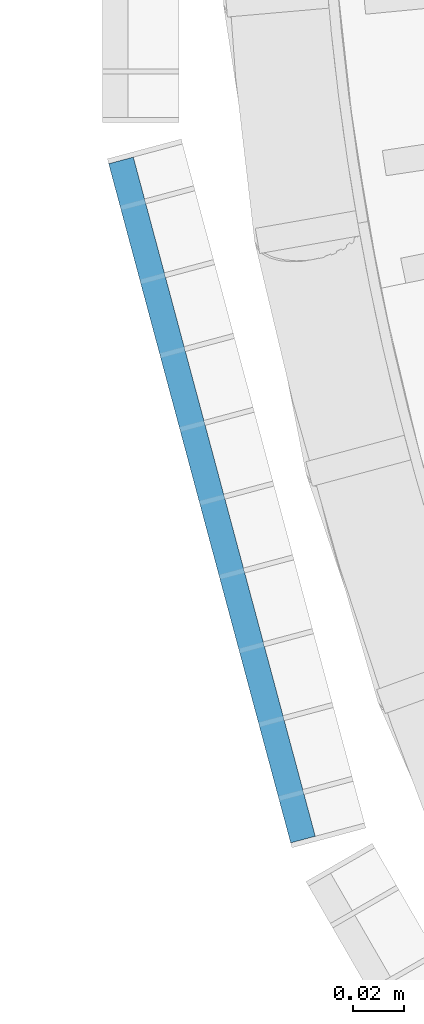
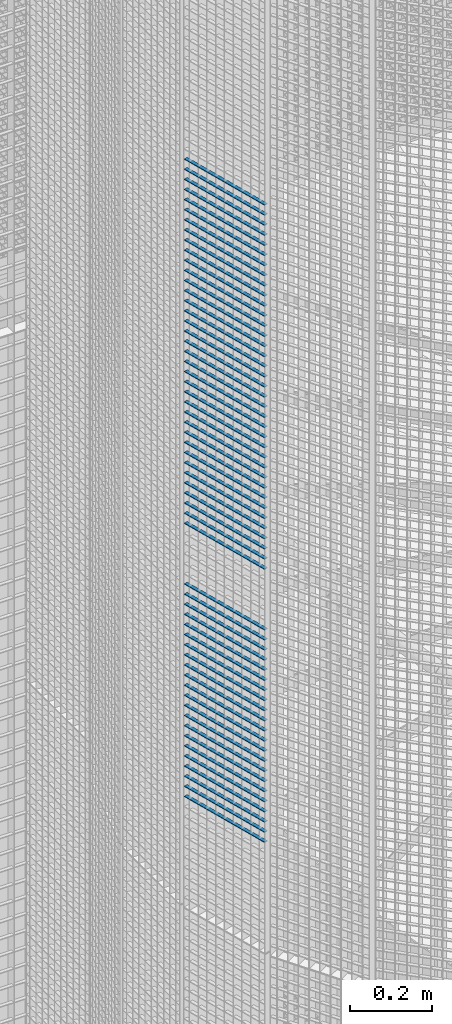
# One storey, part 354 of 1183: 59 beams, 1 element without a shape of its own.
"""IFC2X3 building model written with IfcOpenShell, lengths in millimetres."""

from ifc_helpers import new_model, si_unit, frame, origin_with_axes, origin_2d_with_axis, place, context, subcontext, project, spatial, rectangle, extrude, material, type_object, element, aggregate, save


model = new_model("IFC2X3")

# Units and contexts
model_context = context("Model", 3, precision=1e-05, world=origin_with_axes())
body_context = subcontext(model_context, "Body", "Model", "MODEL_VIEW")
ifc_project = project(units=[si_unit("LENGTHUNIT", "METRE", prefix="MILLI"), si_unit("AREAUNIT", "SQUARE_METRE"), si_unit("VOLUMEUNIT", "CUBIC_METRE"), si_unit("MASSUNIT", "GRAM", prefix="KILO"), si_unit("TIMEUNIT", "SECOND"), si_unit("PLANEANGLEUNIT", "RADIAN"), si_unit("SOLIDANGLEUNIT", "STERADIAN"), si_unit("THERMODYNAMICTEMPERATUREUNIT", "DEGREE_CELSIUS"), si_unit("LUMINOUSINTENSITYUNIT", "LUMEN")], contexts=[model_context])

# Site, building, storey
site_placement = place(None, origin_with_axes())
site = spatial("IfcSite", under=ifc_project, at=site_placement, Name="Undefined", CompositionType="ELEMENT")
building_placement = place(site_placement, origin_with_axes())
building = spatial("IfcBuilding", under=site, at=building_placement, Name="Undefined", CompositionType="ELEMENT")
storey_placement = place(building_placement, origin_with_axes())
storey = spatial("IfcBuildingStorey", under=building, at=storey_placement, Name="Undefined", CompositionType="ELEMENT", Elevation=0.0)

# Assembly, beams
assembly_placement = place(storey_placement, origin_with_axes())
assembly = element("IfcElementAssembly", 1, at=assembly_placement, inside=storey, Name="BORDURE", AssemblyPlace="NOTDEFINED", PredefinedType="NOTDEFINED")
ifc_material = material(Name="STEEL/S235JR")
beam_type = type_object("IfcBeamType", Name="PL2*10", PredefinedType="NOTDEFINED")
beam_1_placement = place(assembly_placement, frame((20560.1769047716, -421.483733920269, 11220.0), z_axis=(-0.965925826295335, -0.258819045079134, 0.0), x_axis=(-0.258819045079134, 0.965925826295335, 0.0)))
beam_1 = element("IfcBeam", 2, at=beam_1_placement, type_object=beam_type, material=ifc_material, Name="ENTRETOISE", context=body_context, shape_type="SweptSolid", body=[
    extrude(rectangle(XDim=2.0, YDim=10.0, at=origin_2d_with_axis()), frame((275.999999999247, 9.09494701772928e-13, 1.53210777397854e-14), z_axis=(-1.0, 0.0, 0.0), x_axis=(0.0, -1.0, 0.0)), (0.0, 0.0, 1.0), 276.0),
])
beam_2_placement = place(assembly_placement, frame((20560.1769047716, -421.483733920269, 11190.0), z_axis=(-0.965925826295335, -0.258819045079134, 0.0), x_axis=(-0.258819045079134, 0.965925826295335, 0.0)))
beam_2 = element("IfcBeam", 3, at=beam_2_placement, type_object=beam_type, material=ifc_material, Name="ENTRETOISE", context=body_context, shape_type="SweptSolid", body=[
    extrude(rectangle(XDim=2.0, YDim=10.0, at=origin_2d_with_axis()), frame((275.999999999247, 9.09494701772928e-13, 1.53210777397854e-14), z_axis=(-1.0, 0.0, 0.0), x_axis=(0.0, -1.0, 0.0)), (0.0, 0.0, 1.0), 276.0),
])
beam_3_placement = place(assembly_placement, frame((20560.1769047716, -421.483733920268, 11160.0), z_axis=(-0.965925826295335, -0.258819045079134, 0.0), x_axis=(-0.258819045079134, 0.965925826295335, 0.0)))
beam_3 = element("IfcBeam", 4, at=beam_3_placement, type_object=beam_type, material=ifc_material, Name="ENTRETOISE", context=body_context, shape_type="SweptSolid", body=[
    extrude(rectangle(XDim=2.0, YDim=10.0, at=origin_2d_with_axis()), frame((275.999999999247, 9.09494701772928e-13, 1.53210777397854e-14), z_axis=(-1.0, 0.0, 0.0), x_axis=(0.0, -1.0, 0.0)), (0.0, 0.0, 1.0), 276.0),
])
beam_4_placement = place(assembly_placement, frame((20560.1769047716, -421.483733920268, 11130.0), z_axis=(-0.965925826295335, -0.258819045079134, 0.0), x_axis=(-0.258819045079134, 0.965925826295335, 0.0)))
beam_4 = element("IfcBeam", 5, at=beam_4_placement, type_object=beam_type, material=ifc_material, Name="ENTRETOISE", context=body_context, shape_type="SweptSolid", body=[
    extrude(rectangle(XDim=2.0, YDim=10.0, at=origin_2d_with_axis()), frame((275.999999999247, 9.09494701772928e-13, 1.53210777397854e-14), z_axis=(-1.0, 0.0, 0.0), x_axis=(0.0, -1.0, 0.0)), (0.0, 0.0, 1.0), 276.0),
])
beam_5_placement = place(assembly_placement, frame((20560.1769047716, -421.483733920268, 11100.0), z_axis=(-0.965925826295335, -0.258819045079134, 0.0), x_axis=(-0.258819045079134, 0.965925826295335, 0.0)))
beam_5 = element("IfcBeam", 6, at=beam_5_placement, type_object=beam_type, material=ifc_material, Name="ENTRETOISE", context=body_context, shape_type="SweptSolid", body=[
    extrude(rectangle(XDim=2.0, YDim=10.0, at=origin_2d_with_axis()), frame((275.999999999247, 9.09494701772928e-13, 1.53210777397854e-14), z_axis=(-1.0, 0.0, 0.0), x_axis=(0.0, -1.0, 0.0)), (0.0, 0.0, 1.0), 276.0),
])
beam_6_placement = place(assembly_placement, frame((20560.1769047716, -421.483733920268, 11070.0), z_axis=(-0.965925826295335, -0.258819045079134, 0.0), x_axis=(-0.258819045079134, 0.965925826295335, 0.0)))
beam_6 = element("IfcBeam", 7, at=beam_6_placement, type_object=beam_type, material=ifc_material, Name="ENTRETOISE", context=body_context, shape_type="SweptSolid", body=[
    extrude(rectangle(XDim=2.0, YDim=10.0, at=origin_2d_with_axis()), frame((275.999999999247, 9.09494701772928e-13, 1.53210777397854e-14), z_axis=(-1.0, 0.0, 0.0), x_axis=(0.0, -1.0, 0.0)), (0.0, 0.0, 1.0), 276.0),
])
beam_7_placement = place(assembly_placement, frame((20560.1769047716, -421.483733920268, 11040.0), z_axis=(-0.965925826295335, -0.258819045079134, 0.0), x_axis=(-0.258819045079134, 0.965925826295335, 0.0)))
beam_7 = element("IfcBeam", 8, at=beam_7_placement, type_object=beam_type, material=ifc_material, Name="ENTRETOISE", context=body_context, shape_type="SweptSolid", body=[
    extrude(rectangle(XDim=2.0, YDim=10.0, at=origin_2d_with_axis()), frame((275.999999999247, 9.09494701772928e-13, 1.53210777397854e-14), z_axis=(-1.0, 0.0, 0.0), x_axis=(0.0, -1.0, 0.0)), (0.0, 0.0, 1.0), 276.0),
])
beam_8_placement = place(assembly_placement, frame((20560.1769047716, -421.483733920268, 11010.0), z_axis=(-0.965925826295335, -0.258819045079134, 0.0), x_axis=(-0.258819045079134, 0.965925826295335, 0.0)))
beam_8 = element("IfcBeam", 9, at=beam_8_placement, type_object=beam_type, material=ifc_material, Name="ENTRETOISE", context=body_context, shape_type="SweptSolid", body=[
    extrude(rectangle(XDim=2.0, YDim=10.0, at=origin_2d_with_axis()), frame((275.999999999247, 9.09494701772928e-13, 1.53210777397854e-14), z_axis=(-1.0, 0.0, 0.0), x_axis=(0.0, -1.0, 0.0)), (0.0, 0.0, 1.0), 276.0),
])
beam_9_placement = place(assembly_placement, frame((20560.1769047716, -421.483733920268, 10980.0), z_axis=(-0.965925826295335, -0.258819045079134, 0.0), x_axis=(-0.258819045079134, 0.965925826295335, 0.0)))
beam_9 = element("IfcBeam", 10, at=beam_9_placement, type_object=beam_type, material=ifc_material, Name="ENTRETOISE", context=body_context, shape_type="SweptSolid", body=[
    extrude(rectangle(XDim=2.0, YDim=10.0, at=origin_2d_with_axis()), frame((275.999999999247, 9.09494701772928e-13, 1.53210777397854e-14), z_axis=(-1.0, 0.0, 0.0), x_axis=(0.0, -1.0, 0.0)), (0.0, 0.0, 1.0), 276.0),
])
beam_10_placement = place(assembly_placement, frame((20560.1769047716, -421.483733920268, 10950.0), z_axis=(-0.965925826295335, -0.258819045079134, 0.0), x_axis=(-0.258819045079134, 0.965925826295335, 0.0)))
beam_10 = element("IfcBeam", 11, at=beam_10_placement, type_object=beam_type, material=ifc_material, Name="ENTRETOISE", context=body_context, shape_type="SweptSolid", body=[
    extrude(rectangle(XDim=2.0, YDim=10.0, at=origin_2d_with_axis()), frame((275.999999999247, 9.09494701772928e-13, 1.53210777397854e-14), z_axis=(-1.0, 0.0, 0.0), x_axis=(0.0, -1.0, 0.0)), (0.0, 0.0, 1.0), 276.0),
])
beam_11_placement = place(assembly_placement, frame((20560.1769047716, -421.483733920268, 10920.0), z_axis=(-0.965925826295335, -0.258819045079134, 0.0), x_axis=(-0.258819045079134, 0.965925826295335, 0.0)))
beam_11 = element("IfcBeam", 12, at=beam_11_placement, type_object=beam_type, material=ifc_material, Name="ENTRETOISE", context=body_context, shape_type="SweptSolid", body=[
    extrude(rectangle(XDim=2.0, YDim=10.0, at=origin_2d_with_axis()), frame((275.999999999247, 9.09494701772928e-13, 1.53210777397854e-14), z_axis=(-1.0, 0.0, 0.0), x_axis=(0.0, -1.0, 0.0)), (0.0, 0.0, 1.0), 276.0),
])
beam_12_placement = place(assembly_placement, frame((20560.1769047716, -421.483733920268, 10890.0), z_axis=(-0.965925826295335, -0.258819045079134, 0.0), x_axis=(-0.258819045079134, 0.965925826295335, 0.0)))
beam_12 = element("IfcBeam", 13, at=beam_12_placement, type_object=beam_type, material=ifc_material, Name="ENTRETOISE", context=body_context, shape_type="SweptSolid", body=[
    extrude(rectangle(XDim=2.0, YDim=10.0, at=origin_2d_with_axis()), frame((275.999999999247, 9.09494701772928e-13, 1.53210777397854e-14), z_axis=(-1.0, 0.0, 0.0), x_axis=(0.0, -1.0, 0.0)), (0.0, 0.0, 1.0), 276.0),
])
beam_13_placement = place(assembly_placement, frame((20560.1769047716, -421.483733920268, 10860.0), z_axis=(-0.965925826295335, -0.258819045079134, 0.0), x_axis=(-0.258819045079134, 0.965925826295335, 0.0)))
beam_13 = element("IfcBeam", 14, at=beam_13_placement, type_object=beam_type, material=ifc_material, Name="ENTRETOISE", context=body_context, shape_type="SweptSolid", body=[
    extrude(rectangle(XDim=2.0, YDim=10.0, at=origin_2d_with_axis()), frame((275.999999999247, 9.09494701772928e-13, 1.53210777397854e-14), z_axis=(-1.0, 0.0, 0.0), x_axis=(0.0, -1.0, 0.0)), (0.0, 0.0, 1.0), 276.0),
])
beam_14_placement = place(assembly_placement, frame((20560.1769047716, -421.483733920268, 10830.0), z_axis=(-0.965925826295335, -0.258819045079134, 0.0), x_axis=(-0.258819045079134, 0.965925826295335, 0.0)))
beam_14 = element("IfcBeam", 15, at=beam_14_placement, type_object=beam_type, material=ifc_material, Name="ENTRETOISE", context=body_context, shape_type="SweptSolid", body=[
    extrude(rectangle(XDim=2.0, YDim=10.0, at=origin_2d_with_axis()), frame((275.999999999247, 9.09494701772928e-13, 1.53210777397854e-14), z_axis=(-1.0, 0.0, 0.0), x_axis=(0.0, -1.0, 0.0)), (0.0, 0.0, 1.0), 276.0),
])
beam_15_placement = place(assembly_placement, frame((20560.1769047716, -421.483733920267, 10800.0), z_axis=(-0.965925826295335, -0.258819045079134, 0.0), x_axis=(-0.258819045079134, 0.965925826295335, 0.0)))
beam_15 = element("IfcBeam", 16, at=beam_15_placement, type_object=beam_type, material=ifc_material, Name="ENTRETOISE", context=body_context, shape_type="SweptSolid", body=[
    extrude(rectangle(XDim=2.0, YDim=10.0, at=origin_2d_with_axis()), frame((275.999999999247, 9.09494701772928e-13, 1.53210777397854e-14), z_axis=(-1.0, 0.0, 0.0), x_axis=(0.0, -1.0, 0.0)), (0.0, 0.0, 1.0), 276.0),
])
beam_16_placement = place(assembly_placement, frame((20560.1769047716, -421.483733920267, 10770.0), z_axis=(-0.965925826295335, -0.258819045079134, 0.0), x_axis=(-0.258819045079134, 0.965925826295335, 0.0)))
beam_16 = element("IfcBeam", 17, at=beam_16_placement, type_object=beam_type, material=ifc_material, Name="ENTRETOISE", context=body_context, shape_type="SweptSolid", body=[
    extrude(rectangle(XDim=2.0, YDim=10.0, at=origin_2d_with_axis()), frame((275.999999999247, 9.09494701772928e-13, 1.53210777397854e-14), z_axis=(-1.0, 0.0, 0.0), x_axis=(0.0, -1.0, 0.0)), (0.0, 0.0, 1.0), 276.0),
])
beam_17_placement = place(assembly_placement, frame((20560.1769047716, -421.483733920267, 10740.0), z_axis=(-0.965925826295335, -0.258819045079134, 0.0), x_axis=(-0.258819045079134, 0.965925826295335, 0.0)))
beam_17 = element("IfcBeam", 18, at=beam_17_placement, type_object=beam_type, material=ifc_material, Name="ENTRETOISE", context=body_context, shape_type="SweptSolid", body=[
    extrude(rectangle(XDim=2.0, YDim=10.0, at=origin_2d_with_axis()), frame((275.999999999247, 9.09494701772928e-13, 1.53210777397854e-14), z_axis=(-1.0, 0.0, 0.0), x_axis=(0.0, -1.0, 0.0)), (0.0, 0.0, 1.0), 276.0),
])
beam_18_placement = place(assembly_placement, frame((20560.1769047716, -421.483733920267, 10710.0), z_axis=(-0.965925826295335, -0.258819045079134, 0.0), x_axis=(-0.258819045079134, 0.965925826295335, 0.0)))
beam_18 = element("IfcBeam", 19, at=beam_18_placement, type_object=beam_type, material=ifc_material, Name="ENTRETOISE", context=body_context, shape_type="SweptSolid", body=[
    extrude(rectangle(XDim=2.0, YDim=10.0, at=origin_2d_with_axis()), frame((275.999999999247, 9.09494701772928e-13, 1.53210777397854e-14), z_axis=(-1.0, 0.0, 0.0), x_axis=(0.0, -1.0, 0.0)), (0.0, 0.0, 1.0), 276.0),
])
beam_19_placement = place(assembly_placement, frame((20560.1769047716, -421.483733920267, 10680.0), z_axis=(-0.965925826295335, -0.258819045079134, 0.0), x_axis=(-0.258819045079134, 0.965925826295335, 0.0)))
beam_19 = element("IfcBeam", 20, at=beam_19_placement, type_object=beam_type, material=ifc_material, Name="ENTRETOISE", context=body_context, shape_type="SweptSolid", body=[
    extrude(rectangle(XDim=2.0, YDim=10.0, at=origin_2d_with_axis()), frame((275.999999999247, 9.09494701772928e-13, 1.53210777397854e-14), z_axis=(-1.0, 0.0, 0.0), x_axis=(0.0, -1.0, 0.0)), (0.0, 0.0, 1.0), 276.0),
])
beam_20_placement = place(assembly_placement, frame((20560.1769047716, -421.483733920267, 10650.0), z_axis=(-0.965925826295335, -0.258819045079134, 0.0), x_axis=(-0.258819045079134, 0.965925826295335, 0.0)))
beam_20 = element("IfcBeam", 21, at=beam_20_placement, type_object=beam_type, material=ifc_material, Name="ENTRETOISE", context=body_context, shape_type="SweptSolid", body=[
    extrude(rectangle(XDim=2.0, YDim=10.0, at=origin_2d_with_axis()), frame((275.999999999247, 9.09494701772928e-13, 1.53210777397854e-14), z_axis=(-1.0, 0.0, 0.0), x_axis=(0.0, -1.0, 0.0)), (0.0, 0.0, 1.0), 276.0),
])
beam_21_placement = place(assembly_placement, frame((20560.1769047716, -421.483733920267, 10620.0), z_axis=(-0.965925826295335, -0.258819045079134, 0.0), x_axis=(-0.258819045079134, 0.965925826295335, 0.0)))
beam_21 = element("IfcBeam", 22, at=beam_21_placement, type_object=beam_type, material=ifc_material, Name="ENTRETOISE", context=body_context, shape_type="SweptSolid", body=[
    extrude(rectangle(XDim=2.0, YDim=10.0, at=origin_2d_with_axis()), frame((275.999999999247, 9.09494701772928e-13, 1.53210777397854e-14), z_axis=(-1.0, 0.0, 0.0), x_axis=(0.0, -1.0, 0.0)), (0.0, 0.0, 1.0), 276.0),
])
beam_22_placement = place(assembly_placement, frame((20560.1769047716, -421.483733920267, 10590.0), z_axis=(-0.965925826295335, -0.258819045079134, 0.0), x_axis=(-0.258819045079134, 0.965925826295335, 0.0)))
beam_22 = element("IfcBeam", 23, at=beam_22_placement, type_object=beam_type, material=ifc_material, Name="ENTRETOISE", context=body_context, shape_type="SweptSolid", body=[
    extrude(rectangle(XDim=2.0, YDim=10.0, at=origin_2d_with_axis()), frame((275.999999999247, 9.09494701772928e-13, 1.53210777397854e-14), z_axis=(-1.0, 0.0, 0.0), x_axis=(0.0, -1.0, 0.0)), (0.0, 0.0, 1.0), 276.0),
])
beam_23_placement = place(assembly_placement, frame((20560.1769047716, -421.483733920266, 10560.0), z_axis=(-0.965925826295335, -0.258819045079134, 0.0), x_axis=(-0.258819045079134, 0.965925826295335, 0.0)))
beam_23 = element("IfcBeam", 24, at=beam_23_placement, type_object=beam_type, material=ifc_material, Name="ENTRETOISE", context=body_context, shape_type="SweptSolid", body=[
    extrude(rectangle(XDim=2.0, YDim=10.0, at=origin_2d_with_axis()), frame((275.999999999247, 9.09494701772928e-13, 1.53210777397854e-14), z_axis=(-1.0, 0.0, 0.0), x_axis=(0.0, -1.0, 0.0)), (0.0, 0.0, 1.0), 276.0),
])
beam_24_placement = place(assembly_placement, frame((20560.1769047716, -421.483733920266, 10530.0), z_axis=(-0.965925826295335, -0.258819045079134, 0.0), x_axis=(-0.258819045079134, 0.965925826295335, 0.0)))
beam_24 = element("IfcBeam", 25, at=beam_24_placement, type_object=beam_type, material=ifc_material, Name="ENTRETOISE", context=body_context, shape_type="SweptSolid", body=[
    extrude(rectangle(XDim=2.0, YDim=10.0, at=origin_2d_with_axis()), frame((275.999999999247, 9.09494701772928e-13, 1.53210777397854e-14), z_axis=(-1.0, 0.0, 0.0), x_axis=(0.0, -1.0, 0.0)), (0.0, 0.0, 1.0), 276.0),
])
beam_25_placement = place(assembly_placement, frame((20560.1769047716, -421.483733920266, 10500.0), z_axis=(-0.965925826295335, -0.258819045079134, 0.0), x_axis=(-0.258819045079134, 0.965925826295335, 0.0)))
beam_25 = element("IfcBeam", 26, at=beam_25_placement, type_object=beam_type, material=ifc_material, Name="ENTRETOISE", context=body_context, shape_type="SweptSolid", body=[
    extrude(rectangle(XDim=2.0, YDim=10.0, at=origin_2d_with_axis()), frame((275.999999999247, 9.09494701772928e-13, 1.53210777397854e-14), z_axis=(-1.0, 0.0, 0.0), x_axis=(0.0, -1.0, 0.0)), (0.0, 0.0, 1.0), 276.0),
])
beam_26_placement = place(assembly_placement, frame((20560.1769047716, -421.483733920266, 10470.0), z_axis=(-0.965925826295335, -0.258819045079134, 0.0), x_axis=(-0.258819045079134, 0.965925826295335, 0.0)))
beam_26 = element("IfcBeam", 27, at=beam_26_placement, type_object=beam_type, material=ifc_material, Name="ENTRETOISE", context=body_context, shape_type="SweptSolid", body=[
    extrude(rectangle(XDim=2.0, YDim=10.0, at=origin_2d_with_axis()), frame((275.999999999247, 9.09494701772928e-13, 1.53210777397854e-14), z_axis=(-1.0, 0.0, 0.0), x_axis=(0.0, -1.0, 0.0)), (0.0, 0.0, 1.0), 276.0),
])
beam_27_placement = place(assembly_placement, frame((20560.1769047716, -421.483733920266, 10440.0), z_axis=(-0.965925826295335, -0.258819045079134, 0.0), x_axis=(-0.258819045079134, 0.965925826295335, 0.0)))
beam_27 = element("IfcBeam", 28, at=beam_27_placement, type_object=beam_type, material=ifc_material, Name="ENTRETOISE", context=body_context, shape_type="SweptSolid", body=[
    extrude(rectangle(XDim=2.0, YDim=10.0, at=origin_2d_with_axis()), frame((275.999999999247, 9.09494701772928e-13, 1.53210777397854e-14), z_axis=(-1.0, 0.0, 0.0), x_axis=(0.0, -1.0, 0.0)), (0.0, 0.0, 1.0), 276.0),
])
beam_28_placement = place(assembly_placement, frame((20560.1769047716, -421.483733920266, 10410.0), z_axis=(-0.965925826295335, -0.258819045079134, 0.0), x_axis=(-0.258819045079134, 0.965925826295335, 0.0)))
beam_28 = element("IfcBeam", 29, at=beam_28_placement, type_object=beam_type, material=ifc_material, Name="ENTRETOISE", context=body_context, shape_type="SweptSolid", body=[
    extrude(rectangle(XDim=2.0, YDim=10.0, at=origin_2d_with_axis()), frame((275.999999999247, 9.09494701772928e-13, 1.53210777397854e-14), z_axis=(-1.0, 0.0, 0.0), x_axis=(0.0, -1.0, 0.0)), (0.0, 0.0, 1.0), 276.0),
])
beam_29_placement = place(assembly_placement, frame((20560.1769047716, -421.483733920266, 10380.0), z_axis=(-0.965925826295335, -0.258819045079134, 0.0), x_axis=(-0.258819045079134, 0.965925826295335, 0.0)))
beam_29 = element("IfcBeam", 30, at=beam_29_placement, type_object=beam_type, material=ifc_material, Name="ENTRETOISE", context=body_context, shape_type="SweptSolid", body=[
    extrude(rectangle(XDim=2.0, YDim=10.0, at=origin_2d_with_axis()), frame((275.999999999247, 9.09494701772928e-13, 1.53210777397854e-14), z_axis=(-1.0, 0.0, 0.0), x_axis=(0.0, -1.0, 0.0)), (0.0, 0.0, 1.0), 276.0),
])
beam_30_placement = place(assembly_placement, frame((20560.1769047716, -421.483733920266, 10350.0), z_axis=(-0.965925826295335, -0.258819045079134, 0.0), x_axis=(-0.258819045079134, 0.965925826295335, 0.0)))
beam_30 = element("IfcBeam", 31, at=beam_30_placement, type_object=beam_type, material=ifc_material, Name="ENTRETOISE", context=body_context, shape_type="SweptSolid", body=[
    extrude(rectangle(XDim=2.0, YDim=10.0, at=origin_2d_with_axis()), frame((275.999999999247, 9.09494701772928e-13, 1.53210777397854e-14), z_axis=(-1.0, 0.0, 0.0), x_axis=(0.0, -1.0, 0.0)), (0.0, 0.0, 1.0), 276.0),
])
beam_31_placement = place(assembly_placement, frame((20560.1769047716, -421.483733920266, 10320.0), z_axis=(-0.965925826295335, -0.258819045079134, 0.0), x_axis=(-0.258819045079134, 0.965925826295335, 0.0)))
beam_31 = element("IfcBeam", 32, at=beam_31_placement, type_object=beam_type, material=ifc_material, Name="ENTRETOISE", context=body_context, shape_type="SweptSolid", body=[
    extrude(rectangle(XDim=2.0, YDim=10.0, at=origin_2d_with_axis()), frame((275.999999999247, 9.09494701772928e-13, 1.53210777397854e-14), z_axis=(-1.0, 0.0, 0.0), x_axis=(0.0, -1.0, 0.0)), (0.0, 0.0, 1.0), 276.0),
])
beam_32_placement = place(assembly_placement, frame((20560.1769047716, -421.483733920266, 10290.0), z_axis=(-0.965925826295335, -0.258819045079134, 0.0), x_axis=(-0.258819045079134, 0.965925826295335, 0.0)))
beam_32 = element("IfcBeam", 33, at=beam_32_placement, type_object=beam_type, material=ifc_material, Name="ENTRETOISE", context=body_context, shape_type="SweptSolid", body=[
    extrude(rectangle(XDim=2.0, YDim=10.0, at=origin_2d_with_axis()), frame((275.999999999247, 9.09494701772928e-13, 1.53210777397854e-14), z_axis=(-1.0, 0.0, 0.0), x_axis=(0.0, -1.0, 0.0)), (0.0, 0.0, 1.0), 276.0),
])
beam_33_placement = place(assembly_placement, frame((20560.1769047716, -421.483733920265, 10260.0), z_axis=(-0.965925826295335, -0.258819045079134, 0.0), x_axis=(-0.258819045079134, 0.965925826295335, 0.0)))
beam_33 = element("IfcBeam", 34, at=beam_33_placement, type_object=beam_type, material=ifc_material, Name="ENTRETOISE", context=body_context, shape_type="SweptSolid", body=[
    extrude(rectangle(XDim=2.0, YDim=10.0, at=origin_2d_with_axis()), frame((275.999999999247, 9.09494701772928e-13, 1.53210777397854e-14), z_axis=(-1.0, 0.0, 0.0), x_axis=(0.0, -1.0, 0.0)), (0.0, 0.0, 1.0), 276.0),
])
beam_34_placement = place(assembly_placement, frame((20560.1769047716, -421.483733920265, 10230.0), z_axis=(-0.965925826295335, -0.258819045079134, 0.0), x_axis=(-0.258819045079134, 0.965925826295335, 0.0)))
beam_34 = element("IfcBeam", 35, at=beam_34_placement, type_object=beam_type, material=ifc_material, Name="ENTRETOISE", context=body_context, shape_type="SweptSolid", body=[
    extrude(rectangle(XDim=2.0, YDim=10.0, at=origin_2d_with_axis()), frame((275.999999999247, 9.09494701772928e-13, 1.53210777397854e-14), z_axis=(-1.0, 0.0, 0.0), x_axis=(0.0, -1.0, 0.0)), (0.0, 0.0, 1.0), 276.0),
])
beam_35_placement = place(assembly_placement, frame((20560.1769047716, -421.483733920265, 10200.0), z_axis=(-0.965925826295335, -0.258819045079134, 0.0), x_axis=(-0.258819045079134, 0.965925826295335, 0.0)))
beam_35 = element("IfcBeam", 36, at=beam_35_placement, type_object=beam_type, material=ifc_material, Name="ENTRETOISE", context=body_context, shape_type="SweptSolid", body=[
    extrude(rectangle(XDim=2.0, YDim=10.0, at=origin_2d_with_axis()), frame((275.999999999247, 9.09494701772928e-13, 1.53210777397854e-14), z_axis=(-1.0, 0.0, 0.0), x_axis=(0.0, -1.0, 0.0)), (0.0, 0.0, 1.0), 276.0),
])
beam_36_placement = place(assembly_placement, frame((20560.1769047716, -421.483733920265, 10170.0), z_axis=(-0.965925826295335, -0.258819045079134, 0.0), x_axis=(-0.258819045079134, 0.965925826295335, 0.0)))
beam_36 = element("IfcBeam", 37, at=beam_36_placement, type_object=beam_type, material=ifc_material, Name="ENTRETOISE", context=body_context, shape_type="SweptSolid", body=[
    extrude(rectangle(XDim=2.0, YDim=10.0, at=origin_2d_with_axis()), frame((275.999999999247, 9.09494701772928e-13, 1.53210777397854e-14), z_axis=(-1.0, 0.0, 0.0), x_axis=(0.0, -1.0, 0.0)), (0.0, 0.0, 1.0), 276.0),
])
beam_37_placement = place(assembly_placement, frame((20560.1769047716, -421.483733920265, 10140.0), z_axis=(-0.965925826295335, -0.258819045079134, 0.0), x_axis=(-0.258819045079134, 0.965925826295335, 0.0)))
beam_37 = element("IfcBeam", 38, at=beam_37_placement, type_object=beam_type, material=ifc_material, Name="ENTRETOISE", context=body_context, shape_type="SweptSolid", body=[
    extrude(rectangle(XDim=2.0, YDim=10.0, at=origin_2d_with_axis()), frame((275.999999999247, 9.09494701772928e-13, 1.53210777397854e-14), z_axis=(-1.0, 0.0, 0.0), x_axis=(0.0, -1.0, 0.0)), (0.0, 0.0, 1.0), 276.0),
])
beam_38_placement = place(assembly_placement, frame((20560.1769047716, -421.483733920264, 9720.0), z_axis=(-0.965925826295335, -0.258819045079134, 0.0), x_axis=(-0.258819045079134, 0.965925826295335, 0.0)))
beam_38 = element("IfcBeam", 39, at=beam_38_placement, type_object=beam_type, material=ifc_material, Name="ENTRETOISE", context=body_context, shape_type="SweptSolid", body=[
    extrude(rectangle(XDim=2.0, YDim=10.0, at=origin_2d_with_axis()), frame((275.999999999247, 9.09494701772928e-13, 1.53210777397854e-14), z_axis=(-1.0, 0.0, 0.0), x_axis=(0.0, -1.0, 0.0)), (0.0, 0.0, 1.0), 276.0),
])
beam_39_placement = place(assembly_placement, frame((20560.1769047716, -421.483733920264, 9690.0), z_axis=(-0.965925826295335, -0.258819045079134, 0.0), x_axis=(-0.258819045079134, 0.965925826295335, 0.0)))
beam_39 = element("IfcBeam", 40, at=beam_39_placement, type_object=beam_type, material=ifc_material, Name="ENTRETOISE", context=body_context, shape_type="SweptSolid", body=[
    extrude(rectangle(XDim=2.0, YDim=10.0, at=origin_2d_with_axis()), frame((275.999999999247, 9.09494701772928e-13, 1.53210777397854e-14), z_axis=(-1.0, 0.0, 0.0), x_axis=(0.0, -1.0, 0.0)), (0.0, 0.0, 1.0), 276.0),
])
beam_40_placement = place(assembly_placement, frame((20560.1769047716, -421.483733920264, 9750.0), z_axis=(-0.965925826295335, -0.258819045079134, 0.0), x_axis=(-0.258819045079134, 0.965925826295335, 0.0)))
beam_40 = element("IfcBeam", 41, at=beam_40_placement, type_object=beam_type, material=ifc_material, Name="ENTRETOISE", context=body_context, shape_type="SweptSolid", body=[
    extrude(rectangle(XDim=2.0, YDim=10.0, at=origin_2d_with_axis()), frame((275.999999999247, 9.09494701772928e-13, 1.53210777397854e-14), z_axis=(-1.0, 0.0, 0.0), x_axis=(0.0, -1.0, 0.0)), (0.0, 0.0, 1.0), 276.0),
])
beam_41_placement = place(assembly_placement, frame((20560.1769047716, -421.483733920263, 9660.0), z_axis=(-0.965925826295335, -0.258819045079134, 0.0), x_axis=(-0.258819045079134, 0.965925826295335, 0.0)))
beam_41 = element("IfcBeam", 42, at=beam_41_placement, type_object=beam_type, material=ifc_material, Name="ENTRETOISE", context=body_context, shape_type="SweptSolid", body=[
    extrude(rectangle(XDim=2.0, YDim=10.0, at=origin_2d_with_axis()), frame((275.999999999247, 9.09494701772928e-13, 1.53210777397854e-14), z_axis=(-1.0, 0.0, 0.0), x_axis=(0.0, -1.0, 0.0)), (0.0, 0.0, 1.0), 276.0),
])
beam_42_placement = place(assembly_placement, frame((20560.1769047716, -421.483733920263, 9630.0), z_axis=(-0.965925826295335, -0.258819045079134, 0.0), x_axis=(-0.258819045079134, 0.965925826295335, 0.0)))
beam_42 = element("IfcBeam", 43, at=beam_42_placement, type_object=beam_type, material=ifc_material, Name="ENTRETOISE", context=body_context, shape_type="SweptSolid", body=[
    extrude(rectangle(XDim=2.0, YDim=10.0, at=origin_2d_with_axis()), frame((275.999999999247, 9.09494701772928e-13, 1.53210777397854e-14), z_axis=(-1.0, 0.0, 0.0), x_axis=(0.0, -1.0, 0.0)), (0.0, 0.0, 1.0), 276.0),
])
beam_43_placement = place(assembly_placement, frame((20560.1769047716, -421.483733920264, 9780.0), z_axis=(-0.965925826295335, -0.258819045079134, 0.0), x_axis=(-0.258819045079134, 0.965925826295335, 0.0)))
beam_43 = element("IfcBeam", 44, at=beam_43_placement, type_object=beam_type, material=ifc_material, Name="ENTRETOISE", context=body_context, shape_type="SweptSolid", body=[
    extrude(rectangle(XDim=2.0, YDim=10.0, at=origin_2d_with_axis()), frame((275.999999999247, 9.09494701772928e-13, 1.53210777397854e-14), z_axis=(-1.0, 0.0, 0.0), x_axis=(0.0, -1.0, 0.0)), (0.0, 0.0, 1.0), 276.0),
])
beam_44_placement = place(assembly_placement, frame((20560.1769047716, -421.483733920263, 9600.0), z_axis=(-0.965925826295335, -0.258819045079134, 0.0), x_axis=(-0.258819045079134, 0.965925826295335, 0.0)))
beam_44 = element("IfcBeam", 45, at=beam_44_placement, type_object=beam_type, material=ifc_material, Name="ENTRETOISE", context=body_context, shape_type="SweptSolid", body=[
    extrude(rectangle(XDim=2.0, YDim=10.0, at=origin_2d_with_axis()), frame((275.999999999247, 9.09494701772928e-13, 1.53210777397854e-14), z_axis=(-1.0, 0.0, 0.0), x_axis=(0.0, -1.0, 0.0)), (0.0, 0.0, 1.0), 276.0),
])
beam_45_placement = place(assembly_placement, frame((20560.1769047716, -421.483733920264, 9810.0), z_axis=(-0.965925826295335, -0.258819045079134, 0.0), x_axis=(-0.258819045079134, 0.965925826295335, 0.0)))
beam_45 = element("IfcBeam", 46, at=beam_45_placement, type_object=beam_type, material=ifc_material, Name="ENTRETOISE", context=body_context, shape_type="SweptSolid", body=[
    extrude(rectangle(XDim=2.0, YDim=10.0, at=origin_2d_with_axis()), frame((275.999999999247, 9.09494701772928e-13, 1.53210777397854e-14), z_axis=(-1.0, 0.0, 0.0), x_axis=(0.0, -1.0, 0.0)), (0.0, 0.0, 1.0), 276.0),
])
beam_46_placement = place(assembly_placement, frame((20560.1769047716, -421.483733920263, 9570.0), z_axis=(-0.965925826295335, -0.258819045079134, 0.0), x_axis=(-0.258819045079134, 0.965925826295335, 0.0)))
beam_46 = element("IfcBeam", 47, at=beam_46_placement, type_object=beam_type, material=ifc_material, Name="ENTRETOISE", context=body_context, shape_type="SweptSolid", body=[
    extrude(rectangle(XDim=2.0, YDim=10.0, at=origin_2d_with_axis()), frame((275.999999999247, 9.09494701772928e-13, 1.53210777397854e-14), z_axis=(-1.0, 0.0, 0.0), x_axis=(0.0, -1.0, 0.0)), (0.0, 0.0, 1.0), 276.0),
])
beam_47_placement = place(assembly_placement, frame((20560.1769047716, -421.483733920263, 9540.0), z_axis=(-0.965925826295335, -0.258819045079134, 0.0), x_axis=(-0.258819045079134, 0.965925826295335, 0.0)))
beam_47 = element("IfcBeam", 48, at=beam_47_placement, type_object=beam_type, material=ifc_material, Name="ENTRETOISE", context=body_context, shape_type="SweptSolid", body=[
    extrude(rectangle(XDim=2.0, YDim=10.0, at=origin_2d_with_axis()), frame((275.999999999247, 9.09494701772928e-13, 1.53210777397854e-14), z_axis=(-1.0, 0.0, 0.0), x_axis=(0.0, -1.0, 0.0)), (0.0, 0.0, 1.0), 276.0),
])
beam_48_placement = place(assembly_placement, frame((20560.1769047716, -421.483733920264, 9840.0), z_axis=(-0.965925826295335, -0.258819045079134, 0.0), x_axis=(-0.258819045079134, 0.965925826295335, 0.0)))
beam_48 = element("IfcBeam", 49, at=beam_48_placement, type_object=beam_type, material=ifc_material, Name="ENTRETOISE", context=body_context, shape_type="SweptSolid", body=[
    extrude(rectangle(XDim=2.0, YDim=10.0, at=origin_2d_with_axis()), frame((275.999999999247, 9.09494701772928e-13, 1.53210777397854e-14), z_axis=(-1.0, 0.0, 0.0), x_axis=(0.0, -1.0, 0.0)), (0.0, 0.0, 1.0), 276.0),
])
beam_49_placement = place(assembly_placement, frame((20560.1769047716, -421.483733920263, 9510.0), z_axis=(-0.965925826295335, -0.258819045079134, 0.0), x_axis=(-0.258819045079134, 0.965925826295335, 0.0)))
beam_49 = element("IfcBeam", 50, at=beam_49_placement, type_object=beam_type, material=ifc_material, Name="ENTRETOISE", context=body_context, shape_type="SweptSolid", body=[
    extrude(rectangle(XDim=2.0, YDim=10.0, at=origin_2d_with_axis()), frame((275.999999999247, 9.09494701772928e-13, 1.53210777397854e-14), z_axis=(-1.0, 0.0, 0.0), x_axis=(0.0, -1.0, 0.0)), (0.0, 0.0, 1.0), 276.0),
])
beam_50_placement = place(assembly_placement, frame((20560.1769047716, -421.483733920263, 9480.0), z_axis=(-0.965925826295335, -0.258819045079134, 0.0), x_axis=(-0.258819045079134, 0.965925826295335, 0.0)))
beam_50 = element("IfcBeam", 51, at=beam_50_placement, type_object=beam_type, material=ifc_material, Name="ENTRETOISE", context=body_context, shape_type="SweptSolid", body=[
    extrude(rectangle(XDim=2.0, YDim=10.0, at=origin_2d_with_axis()), frame((275.999999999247, 9.09494701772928e-13, 1.53210777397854e-14), z_axis=(-1.0, 0.0, 0.0), x_axis=(0.0, -1.0, 0.0)), (0.0, 0.0, 1.0), 276.0),
])
beam_51_placement = place(assembly_placement, frame((20560.1769047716, -421.483733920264, 9870.0), z_axis=(-0.965925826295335, -0.258819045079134, 0.0), x_axis=(-0.258819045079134, 0.965925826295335, 0.0)))
beam_51 = element("IfcBeam", 52, at=beam_51_placement, type_object=beam_type, material=ifc_material, Name="ENTRETOISE", context=body_context, shape_type="SweptSolid", body=[
    extrude(rectangle(XDim=2.0, YDim=10.0, at=origin_2d_with_axis()), frame((275.999999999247, 9.09494701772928e-13, 1.53210777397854e-14), z_axis=(-1.0, 0.0, 0.0), x_axis=(0.0, -1.0, 0.0)), (0.0, 0.0, 1.0), 276.0),
])
beam_52_placement = place(assembly_placement, frame((20560.1769047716, -421.483733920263, 9450.0), z_axis=(-0.965925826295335, -0.258819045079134, 0.0), x_axis=(-0.258819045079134, 0.965925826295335, 0.0)))
beam_52 = element("IfcBeam", 53, at=beam_52_placement, type_object=beam_type, material=ifc_material, Name="ENTRETOISE", context=body_context, shape_type="SweptSolid", body=[
    extrude(rectangle(XDim=2.0, YDim=10.0, at=origin_2d_with_axis()), frame((275.999999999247, 9.09494701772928e-13, 1.53210777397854e-14), z_axis=(-1.0, 0.0, 0.0), x_axis=(0.0, -1.0, 0.0)), (0.0, 0.0, 1.0), 276.0),
])
beam_53_placement = place(assembly_placement, frame((20560.1769047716, -421.483733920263, 9420.0), z_axis=(-0.965925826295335, -0.258819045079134, 0.0), x_axis=(-0.258819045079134, 0.965925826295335, 0.0)))
beam_53 = element("IfcBeam", 54, at=beam_53_placement, type_object=beam_type, material=ifc_material, Name="ENTRETOISE", context=body_context, shape_type="SweptSolid", body=[
    extrude(rectangle(XDim=2.0, YDim=10.0, at=origin_2d_with_axis()), frame((275.999999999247, 9.09494701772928e-13, 1.53210777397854e-14), z_axis=(-1.0, 0.0, 0.0), x_axis=(0.0, -1.0, 0.0)), (0.0, 0.0, 1.0), 276.0),
])
beam_54_placement = place(assembly_placement, frame((20560.1769047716, -421.483733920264, 9900.0), z_axis=(-0.965925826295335, -0.258819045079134, 0.0), x_axis=(-0.258819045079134, 0.965925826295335, 0.0)))
beam_54 = element("IfcBeam", 55, at=beam_54_placement, type_object=beam_type, material=ifc_material, Name="ENTRETOISE", context=body_context, shape_type="SweptSolid", body=[
    extrude(rectangle(XDim=2.0, YDim=10.0, at=origin_2d_with_axis()), frame((275.999999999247, 9.09494701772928e-13, 1.53210777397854e-14), z_axis=(-1.0, 0.0, 0.0), x_axis=(0.0, -1.0, 0.0)), (0.0, 0.0, 1.0), 276.0),
])
beam_55_placement = place(assembly_placement, frame((20560.1769047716, -421.483733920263, 9390.0), z_axis=(-0.965925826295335, -0.258819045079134, 0.0), x_axis=(-0.258819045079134, 0.965925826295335, 0.0)))
beam_55 = element("IfcBeam", 56, at=beam_55_placement, type_object=beam_type, material=ifc_material, Name="ENTRETOISE", context=body_context, shape_type="SweptSolid", body=[
    extrude(rectangle(XDim=2.0, YDim=10.0, at=origin_2d_with_axis()), frame((275.999999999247, 9.09494701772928e-13, 1.53210777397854e-14), z_axis=(-1.0, 0.0, 0.0), x_axis=(0.0, -1.0, 0.0)), (0.0, 0.0, 1.0), 276.0),
])
beam_56_placement = place(assembly_placement, frame((20560.1769047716, -421.483733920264, 9930.0), z_axis=(-0.965925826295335, -0.258819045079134, 0.0), x_axis=(-0.258819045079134, 0.965925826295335, 0.0)))
beam_56 = element("IfcBeam", 57, at=beam_56_placement, type_object=beam_type, material=ifc_material, Name="ENTRETOISE", context=body_context, shape_type="SweptSolid", body=[
    extrude(rectangle(XDim=2.0, YDim=10.0, at=origin_2d_with_axis()), frame((275.999999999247, 9.09494701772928e-13, 1.53210777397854e-14), z_axis=(-1.0, 0.0, 0.0), x_axis=(0.0, -1.0, 0.0)), (0.0, 0.0, 1.0), 276.0),
])
beam_57_placement = place(assembly_placement, frame((20560.1769047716, -421.483733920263, 9360.0), z_axis=(-0.965925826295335, -0.258819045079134, 0.0), x_axis=(-0.258819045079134, 0.965925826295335, 0.0)))
beam_57 = element("IfcBeam", 58, at=beam_57_placement, type_object=beam_type, material=ifc_material, Name="ENTRETOISE", context=body_context, shape_type="SweptSolid", body=[
    extrude(rectangle(XDim=2.0, YDim=10.0, at=origin_2d_with_axis()), frame((275.999999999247, 9.09494701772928e-13, 1.53210777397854e-14), z_axis=(-1.0, 0.0, 0.0), x_axis=(0.0, -1.0, 0.0)), (0.0, 0.0, 1.0), 276.0),
])
beam_58_placement = place(assembly_placement, frame((20560.1769047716, -421.483733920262, 9330.0), z_axis=(-0.965925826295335, -0.258819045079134, 0.0), x_axis=(-0.258819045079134, 0.965925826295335, 0.0)))
beam_58 = element("IfcBeam", 59, at=beam_58_placement, type_object=beam_type, material=ifc_material, Name="ENTRETOISE", context=body_context, shape_type="SweptSolid", body=[
    extrude(rectangle(XDim=2.0, YDim=10.0, at=origin_2d_with_axis()), frame((275.999999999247, 9.09494701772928e-13, 1.53210777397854e-14), z_axis=(-1.0, 0.0, 0.0), x_axis=(0.0, -1.0, 0.0)), (0.0, 0.0, 1.0), 276.0),
])
beam_59_placement = place(assembly_placement, frame((20560.1769047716, -421.483733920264, 9960.0), z_axis=(-0.965925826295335, -0.258819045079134, 0.0), x_axis=(-0.258819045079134, 0.965925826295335, 0.0)))
beam_59 = element("IfcBeam", 60, at=beam_59_placement, type_object=beam_type, material=ifc_material, Name="ENTRETOISE", context=body_context, shape_type="SweptSolid", body=[
    extrude(rectangle(XDim=2.0, YDim=10.0, at=origin_2d_with_axis()), frame((275.999999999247, 9.09494701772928e-13, 1.53210777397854e-14), z_axis=(-1.0, 0.0, 0.0), x_axis=(0.0, -1.0, 0.0)), (0.0, 0.0, 1.0), 276.0),
])
aggregate(assembly, [beam_1, beam_2, beam_3, beam_4, beam_5, beam_6, beam_7, beam_8, beam_9, beam_10, beam_11, beam_12, beam_13, beam_14, beam_15, beam_16, beam_17, beam_18, beam_19, beam_20, beam_21, beam_22, beam_23, beam_24, beam_25, beam_26, beam_27, beam_28, beam_29, beam_30, beam_31, beam_32, beam_33, beam_34, beam_35, beam_36, beam_37, beam_38, beam_39, beam_40, beam_41, beam_42, beam_43, beam_44, beam_45, beam_46, beam_47, beam_48, beam_49, beam_50, beam_51, beam_52, beam_53, beam_54, beam_55, beam_56, beam_57, beam_58, beam_59])

save(model, "model.ifc")
